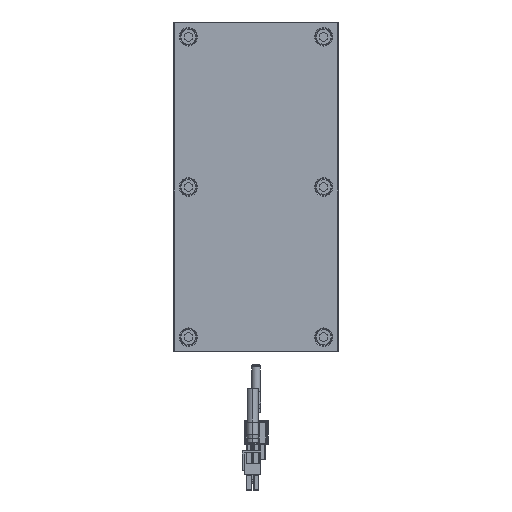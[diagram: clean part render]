
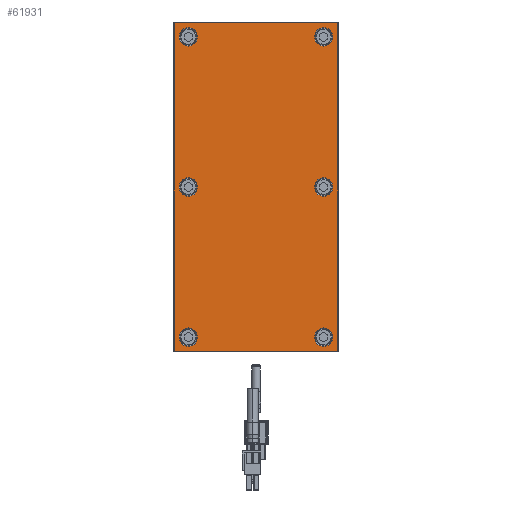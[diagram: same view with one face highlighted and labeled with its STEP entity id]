
A CAD part, front view. The second image highlights one B-rep face of the part: STEP entity #61931.
In plain terms, the highlighted planar face has unit normal (0, -1, 0).
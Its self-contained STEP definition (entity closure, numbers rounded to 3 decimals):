
#60548=CARTESIAN_POINT('',(99.,-7.,-49.));
#60549=DIRECTION('',(0.,-1.,0.));
#60550=DIRECTION('',(0.,0.,-1.));
#60551=AXIS2_PLACEMENT_3D('',#60548,#60549,#60550);
#60553=DIRECTION('',(1.,0.,0.));
#60554=VECTOR('',#60553,198.);
#60555=CARTESIAN_POINT('',(-99.,-7.,
-49.5));
#60556=LINE('',#60555,#60554);
#60557=CARTESIAN_POINT('',(-99.,-7.,-49.));
#60558=DIRECTION('',(0.,-1.,0.));
#60559=DIRECTION('',(-1.,0.,0.));
#60560=AXIS2_PLACEMENT_3D('',#60557,#60558,#60559);
#60562=DIRECTION('',(0.,0.,-1.));
#60563=VECTOR('',#60562,98.);
#60564=CARTESIAN_POINT('',(-99.5,-7.,
49.));
#60565=LINE('',#60564,#60563);
#60566=CARTESIAN_POINT('',(-99.,-7.,49.));
#60567=DIRECTION('',(0.,-1.,0.));
#60568=DIRECTION('',(0.,0.,1.));
#60569=AXIS2_PLACEMENT_3D('',#60566,#60567,#60568);
#60571=DIRECTION('',(-1.,0.,0.));
#60572=VECTOR('',#60571,198.);
#60573=CARTESIAN_POINT('',(99.,-7.,
49.5));
#60574=LINE('',#60573,#60572);
#60575=CARTESIAN_POINT('',(99.,-7.,49.));
#60576=DIRECTION('',(0.,-1.,0.));
#60577=DIRECTION('',(1.,0.,0.));
#60578=AXIS2_PLACEMENT_3D('',#60575,#60576,#60577);
#60580=DIRECTION('',(0.,0.,1.));
#60581=VECTOR('',#60580,98.);
#60582=CARTESIAN_POINT('',(99.5,-7.,
-49.));
#60583=LINE('',#60582,#60581);
#60584=CARTESIAN_POINT('',(-91.,-7.,-41.));
#60585=DIRECTION('',(0.,1.,0.));
#60586=DIRECTION('',(1.,0.,0.));
#60587=AXIS2_PLACEMENT_3D('',#60584,#60585,#60586);
#60589=CARTESIAN_POINT('',(-91.,-7.,-41.));
#60590=DIRECTION('',(0.,1.,0.));
#60591=DIRECTION('',(-1.,0.,0.));
#60592=AXIS2_PLACEMENT_3D('',#60589,#60590,#60591);
#60594=CARTESIAN_POINT('',(0.,-7.,-41.));
#60595=DIRECTION('',(0.,1.,0.));
#60596=DIRECTION('',(1.,0.,0.));
#60597=AXIS2_PLACEMENT_3D('',#60594,#60595,#60596);
#60599=CARTESIAN_POINT('',(0.,-7.,-41.));
#60600=DIRECTION('',(0.,1.,0.));
#60601=DIRECTION('',(-1.,0.,0.));
#60602=AXIS2_PLACEMENT_3D('',#60599,#60600,#60601);
#60604=CARTESIAN_POINT('',(91.,-7.,-41.));
#60605=DIRECTION('',(0.,1.,0.));
#60606=DIRECTION('',(1.,0.,0.));
#60607=AXIS2_PLACEMENT_3D('',#60604,#60605,#60606);
#60609=CARTESIAN_POINT('',(91.,-7.,-41.));
#60610=DIRECTION('',(0.,1.,0.));
#60611=DIRECTION('',(-1.,0.,0.));
#60612=AXIS2_PLACEMENT_3D('',#60609,#60610,#60611);
#60614=CARTESIAN_POINT('',(91.,-7.,41.));
#60615=DIRECTION('',(0.,1.,0.));
#60616=DIRECTION('',(1.,0.,0.));
#60617=AXIS2_PLACEMENT_3D('',#60614,#60615,#60616);
#60619=CARTESIAN_POINT('',(91.,-7.,41.));
#60620=DIRECTION('',(0.,1.,0.));
#60621=DIRECTION('',(-1.,0.,0.));
#60622=AXIS2_PLACEMENT_3D('',#60619,#60620,#60621);
#60624=CARTESIAN_POINT('',(0.,-7.,41.));
#60625=DIRECTION('',(0.,1.,0.));
#60626=DIRECTION('',(1.,0.,0.));
#60627=AXIS2_PLACEMENT_3D('',#60624,#60625,#60626);
#60629=CARTESIAN_POINT('',(0.,-7.,41.));
#60630=DIRECTION('',(0.,1.,0.));
#60631=DIRECTION('',(-1.,0.,0.));
#60632=AXIS2_PLACEMENT_3D('',#60629,#60630,#60631);
#60634=CARTESIAN_POINT('',(-91.,-7.,41.));
#60635=DIRECTION('',(0.,1.,0.));
#60636=DIRECTION('',(1.,0.,0.));
#60637=AXIS2_PLACEMENT_3D('',#60634,#60635,#60636);
#60639=CARTESIAN_POINT('',(-91.,-7.,41.));
#60640=DIRECTION('',(0.,1.,0.));
#60641=DIRECTION('',(-1.,0.,0.));
#60642=AXIS2_PLACEMENT_3D('',#60639,#60640,#60641);
#61672=CARTESIAN_POINT('',(99.,-7.,-49.5));
#61673=CARTESIAN_POINT('',(99.5,-7.,-49.));
#61674=VERTEX_POINT('',#61672);
#61675=VERTEX_POINT('',#61673);
#61680=CARTESIAN_POINT('',(99.5,-7.,
49.));
#61681=VERTEX_POINT('',#61680);
#61684=CARTESIAN_POINT('',(99.,-7.,49.5));
#61685=VERTEX_POINT('',#61684);
#61688=CARTESIAN_POINT('',(-99.,-7.,
49.5));
#61689=VERTEX_POINT('',#61688);
#61692=CARTESIAN_POINT('',(-99.5,-7.,49.));
#61693=VERTEX_POINT('',#61692);
#61696=CARTESIAN_POINT('',(-99.5,-7.,
-49.));
#61697=VERTEX_POINT('',#61696);
#61700=CARTESIAN_POINT('',(-99.,-7.,-49.5));
#61701=VERTEX_POINT('',#61700);
#61728=CARTESIAN_POINT('',(-85.45,-7.,-41.));
#61729=CARTESIAN_POINT('',(-96.55,-7.,-41.));
#61730=VERTEX_POINT('',#61728);
#61731=VERTEX_POINT('',#61729);
#61744=CARTESIAN_POINT('',(5.55,-7.,-41.));
#61745=CARTESIAN_POINT('',(-5.55,-7.,-41.));
#61746=VERTEX_POINT('',#61744);
#61747=VERTEX_POINT('',#61745);
#61768=CARTESIAN_POINT('',(96.55,-7.,-41.));
#61769=CARTESIAN_POINT('',(85.45,-7.,-41.));
#61770=VERTEX_POINT('',#61768);
#61771=VERTEX_POINT('',#61769);
#61784=CARTESIAN_POINT('',(96.55,-7.,41.));
#61785=CARTESIAN_POINT('',(85.45,-7.,41.));
#61786=VERTEX_POINT('',#61784);
#61787=VERTEX_POINT('',#61785);
#61792=CARTESIAN_POINT('',(5.55,-7.,41.));
#61793=CARTESIAN_POINT('',(-5.55,-7.,41.));
#61794=VERTEX_POINT('',#61792);
#61795=VERTEX_POINT('',#61793);
#61816=CARTESIAN_POINT('',(-85.45,-7.,41.));
#61817=CARTESIAN_POINT('',(-96.55,-7.,41.));
#61818=VERTEX_POINT('',#61816);
#61819=VERTEX_POINT('',#61817);
#61872=CARTESIAN_POINT('',(0.,-7.,0.));
#61873=DIRECTION('',(0.,1.,0.));
#61874=DIRECTION('',(1.,0.,0.));
#61875=AXIS2_PLACEMENT_3D('',#61872,#61873,#61874);
#61876=PLANE('',#61875);
#61878=ORIENTED_EDGE('',*,*,#61877,.F.);
#61880=ORIENTED_EDGE('',*,*,#61879,.F.);
#61882=ORIENTED_EDGE('',*,*,#61881,.F.);
#61884=ORIENTED_EDGE('',*,*,#61883,.F.);
#61886=ORIENTED_EDGE('',*,*,#61885,.F.);
#61888=ORIENTED_EDGE('',*,*,#61887,.F.);
#61890=ORIENTED_EDGE('',*,*,#61889,.F.);
#61892=ORIENTED_EDGE('',*,*,#61891,.F.);
#61893=EDGE_LOOP('',(#61878,#61880,#61882,#61884,#61886,#61888,#61890,#61892));
#61894=FACE_OUTER_BOUND('',#61893,.F.);
#61896=ORIENTED_EDGE('',*,*,#61895,.F.);
#61898=ORIENTED_EDGE('',*,*,#61897,.F.);
#61899=EDGE_LOOP('',(#61896,#61898));
#61900=FACE_BOUND('',#61899,.F.);
#61902=ORIENTED_EDGE('',*,*,#61901,.F.);
#61904=ORIENTED_EDGE('',*,*,#61903,.F.);
#61905=EDGE_LOOP('',(#61902,#61904));
#61906=FACE_BOUND('',#61905,.F.);
#61908=ORIENTED_EDGE('',*,*,#61907,.F.);
#61910=ORIENTED_EDGE('',*,*,#61909,.F.);
#61911=EDGE_LOOP('',(#61908,#61910));
#61912=FACE_BOUND('',#61911,.F.);
#61914=ORIENTED_EDGE('',*,*,#61913,.F.);
#61916=ORIENTED_EDGE('',*,*,#61915,.F.);
#61917=EDGE_LOOP('',(#61914,#61916));
#61918=FACE_BOUND('',#61917,.F.);
#61920=ORIENTED_EDGE('',*,*,#61919,.F.);
#61922=ORIENTED_EDGE('',*,*,#61921,.F.);
#61923=EDGE_LOOP('',(#61920,#61922));
#61924=FACE_BOUND('',#61923,.F.);
#61926=ORIENTED_EDGE('',*,*,#61925,.F.);
#61928=ORIENTED_EDGE('',*,*,#61927,.F.);
#61929=EDGE_LOOP('',(#61926,#61928));
#61930=FACE_BOUND('',#61929,.F.);
#61931=ADVANCED_FACE('',(#61894,#61900,#61906,#61912,#61918,#61924,#61930),
#61876,.F.);
#60552=CIRCLE('',#60551,0.5);
#60561=CIRCLE('',#60560,0.5);
#60570=CIRCLE('',#60569,0.5);
#60579=CIRCLE('',#60578,0.5);
#60588=CIRCLE('',#60587,5.55);
#60593=CIRCLE('',#60592,5.55);
#60598=CIRCLE('',#60597,5.55);
#60603=CIRCLE('',#60602,5.55);
#60608=CIRCLE('',#60607,5.55);
#60613=CIRCLE('',#60612,5.55);
#60618=CIRCLE('',#60617,5.55);
#60623=CIRCLE('',#60622,5.55);
#60628=CIRCLE('',#60627,5.55);
#60633=CIRCLE('',#60632,5.55);
#60638=CIRCLE('',#60637,5.55);
#60643=CIRCLE('',#60642,5.55);
#61877=EDGE_CURVE('',#61674,#61675,#60552,.T.);
#61879=EDGE_CURVE('',#61701,#61674,#60556,.T.);
#61881=EDGE_CURVE('',#61697,#61701,#60561,.T.);
#61883=EDGE_CURVE('',#61693,#61697,#60565,.T.);
#61885=EDGE_CURVE('',#61689,#61693,#60570,.T.);
#61887=EDGE_CURVE('',#61685,#61689,#60574,.T.);
#61889=EDGE_CURVE('',#61681,#61685,#60579,.T.);
#61891=EDGE_CURVE('',#61675,#61681,#60583,.T.);
#61895=EDGE_CURVE('',#61730,#61731,#60588,.T.);
#61897=EDGE_CURVE('',#61731,#61730,#60593,.T.);
#61901=EDGE_CURVE('',#61746,#61747,#60598,.T.);
#61903=EDGE_CURVE('',#61747,#61746,#60603,.T.);
#61907=EDGE_CURVE('',#61770,#61771,#60608,.T.);
#61909=EDGE_CURVE('',#61771,#61770,#60613,.T.);
#61913=EDGE_CURVE('',#61786,#61787,#60618,.T.);
#61915=EDGE_CURVE('',#61787,#61786,#60623,.T.);
#61919=EDGE_CURVE('',#61794,#61795,#60628,.T.);
#61921=EDGE_CURVE('',#61795,#61794,#60633,.T.);
#61925=EDGE_CURVE('',#61818,#61819,#60638,.T.);
#61927=EDGE_CURVE('',#61819,#61818,#60643,.T.);
